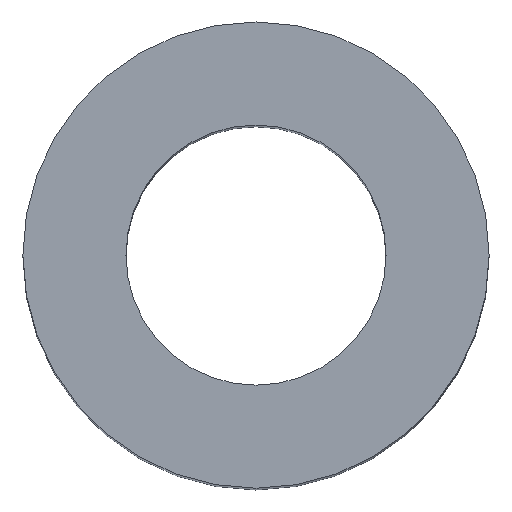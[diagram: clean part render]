
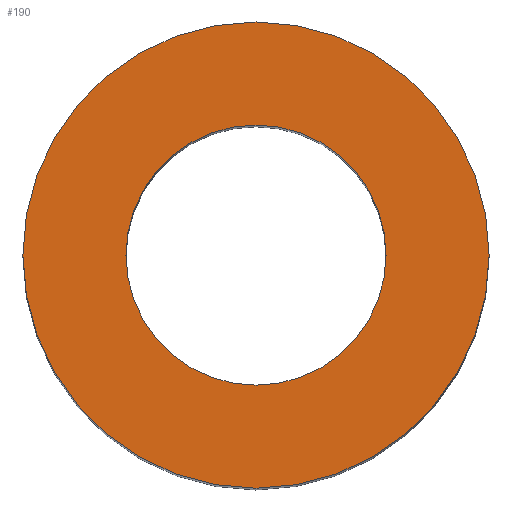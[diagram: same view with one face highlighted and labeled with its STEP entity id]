
A CAD part, top view. The second image highlights one B-rep face of the part: STEP entity #190.
In plain terms, the highlighted planar face has unit normal (0, 0, 1).
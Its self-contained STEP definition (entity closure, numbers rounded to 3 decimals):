
#24 = VERTEX_POINT('',#25);
#25 = CARTESIAN_POINT('',(4.525,0.,20.));
#32 = CYLINDRICAL_SURFACE('',#33,4.525);
#33 = AXIS2_PLACEMENT_3D('',#34,#35,#36);
#34 = CARTESIAN_POINT('',(0.,0.,0.));
#35 = DIRECTION('',(-0.,-0.,-1.));
#36 = DIRECTION('',(1.,0.,0.));
#51 = EDGE_CURVE('',#24,#24,#52,.T.);
#52 = SURFACE_CURVE('',#53,(#58,#65),.PCURVE_S1.);
#53 = CIRCLE('',#54,4.525);
#54 = AXIS2_PLACEMENT_3D('',#55,#56,#57);
#55 = CARTESIAN_POINT('',(0.,0.,20.));
#56 = DIRECTION('',(0.,0.,1.));
#57 = DIRECTION('',(1.,0.,0.));
#58 = PCURVE('',#32,#59);
#59 = DEFINITIONAL_REPRESENTATION('',(#60),#64);
#60 = LINE('',#61,#62);
#61 = CARTESIAN_POINT('',(-0.,-20.));
#62 = VECTOR('',#63,1.);
#63 = DIRECTION('',(-1.,0.));
#64 = ( GEOMETRIC_REPRESENTATION_CONTEXT(2) 
PARAMETRIC_REPRESENTATION_CONTEXT() REPRESENTATION_CONTEXT('2D SPACE',''
  ) );
#65 = PCURVE('',#66,#71);
#66 = PLANE('',#67);
#67 = AXIS2_PLACEMENT_3D('',#68,#69,#70);
#68 = CARTESIAN_POINT('',(0.,0.,20.));
#69 = DIRECTION('',(0.,0.,1.));
#70 = DIRECTION('',(1.,0.,-0.));
#71 = DEFINITIONAL_REPRESENTATION('',(#72),#76);
#72 = CIRCLE('',#73,4.525);
#73 = AXIS2_PLACEMENT_2D('',#74,#75);
#74 = CARTESIAN_POINT('',(0.,0.));
#75 = DIRECTION('',(1.,0.));
#76 = ( GEOMETRIC_REPRESENTATION_CONTEXT(2) 
PARAMETRIC_REPRESENTATION_CONTEXT() REPRESENTATION_CONTEXT('2D SPACE',''
  ) );
#112 = VERTEX_POINT('',#113);
#113 = CARTESIAN_POINT('',(2.525,0.,20.));
#120 = CYLINDRICAL_SURFACE('',#121,2.525);
#121 = AXIS2_PLACEMENT_3D('',#122,#123,#124);
#122 = CARTESIAN_POINT('',(0.,0.,0.));
#123 = DIRECTION('',(-0.,-0.,-1.));
#124 = DIRECTION('',(1.,0.,0.));
#139 = EDGE_CURVE('',#112,#112,#140,.T.);
#140 = SURFACE_CURVE('',#141,(#146,#153),.PCURVE_S1.);
#141 = CIRCLE('',#142,2.525);
#142 = AXIS2_PLACEMENT_3D('',#143,#144,#145);
#143 = CARTESIAN_POINT('',(0.,0.,20.));
#144 = DIRECTION('',(0.,0.,1.));
#145 = DIRECTION('',(1.,0.,0.));
#146 = PCURVE('',#120,#147);
#147 = DEFINITIONAL_REPRESENTATION('',(#148),#152);
#148 = LINE('',#149,#150);
#149 = CARTESIAN_POINT('',(-0.,-20.));
#150 = VECTOR('',#151,1.);
#151 = DIRECTION('',(-1.,0.));
#152 = ( GEOMETRIC_REPRESENTATION_CONTEXT(2) 
PARAMETRIC_REPRESENTATION_CONTEXT() REPRESENTATION_CONTEXT('2D SPACE',''
  ) );
#153 = PCURVE('',#66,#154);
#154 = DEFINITIONAL_REPRESENTATION('',(#155),#159);
#155 = CIRCLE('',#156,2.525);
#156 = AXIS2_PLACEMENT_2D('',#157,#158);
#157 = CARTESIAN_POINT('',(0.,0.));
#158 = DIRECTION('',(1.,0.));
#159 = ( GEOMETRIC_REPRESENTATION_CONTEXT(2) 
PARAMETRIC_REPRESENTATION_CONTEXT() REPRESENTATION_CONTEXT('2D SPACE',''
  ) );
#190 = ADVANCED_FACE('',(#191,#194),#66,.T.);
#191 = FACE_BOUND('',#192,.T.);
#192 = EDGE_LOOP('',(#193));
#193 = ORIENTED_EDGE('',*,*,#51,.T.);
#194 = FACE_BOUND('',#195,.T.);
#195 = EDGE_LOOP('',(#196));
#196 = ORIENTED_EDGE('',*,*,#139,.F.);
